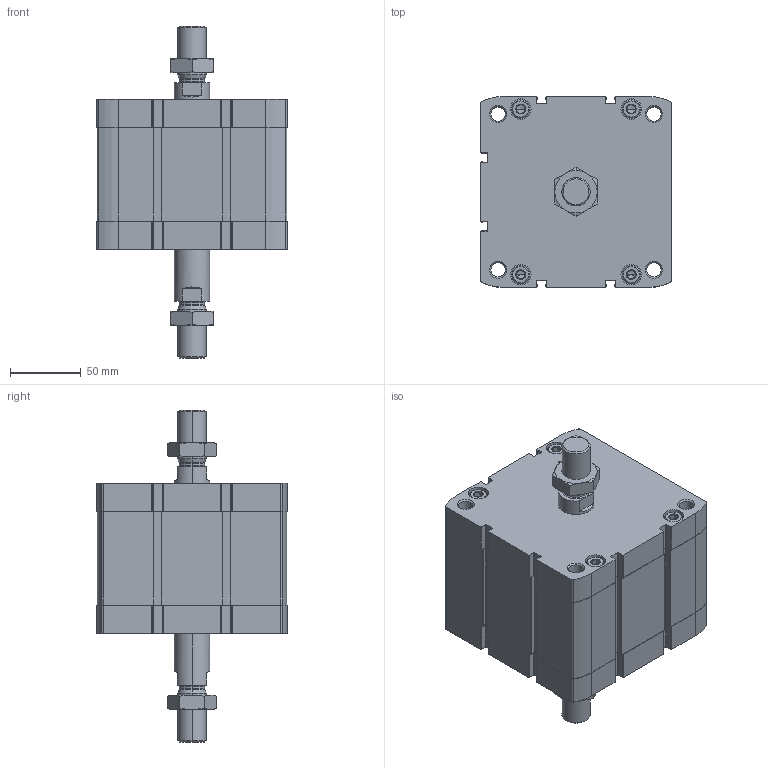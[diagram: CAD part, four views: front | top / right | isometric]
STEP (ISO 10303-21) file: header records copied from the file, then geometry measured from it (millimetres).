
FILE_DESCRIPTION (( 'STEP AP203' ), '1' );
FILE_NAME ('CCN125-25-P.STEP', '2020-06-22T19:13:14', ( '' ), ( '' ), 'SwSTEP 2.0', 'SolidWorks 2019', '' );
FILE_SCHEMA (( 'CONFIG_CONTROL_DESIGN' ));
Length unit declared in the file: millimetre
Products named in the file (1): CCN125-25-P
Bounding box: 134.6 x 134.6 x 234.4 mm (x, y, z)
Volume: 1597290.4 mm3; surface area: 224932.6 mm2
Topology: 4 solids, 4 shells, 592 faces, 1496 edges, 936 vertices
Faces by surface type: plane 288, cylinder 204, cone 92, torus 8
Entity records: 19603 total; most frequent: CARTESIAN_POINT 5061, DIRECTION 3146, ORIENTED_EDGE 2960, EDGE_CURVE 1480, AXIS2_PLACEMENT_3D 1165, VERTEX_POINT 936, LINE 816, VECTOR 816
